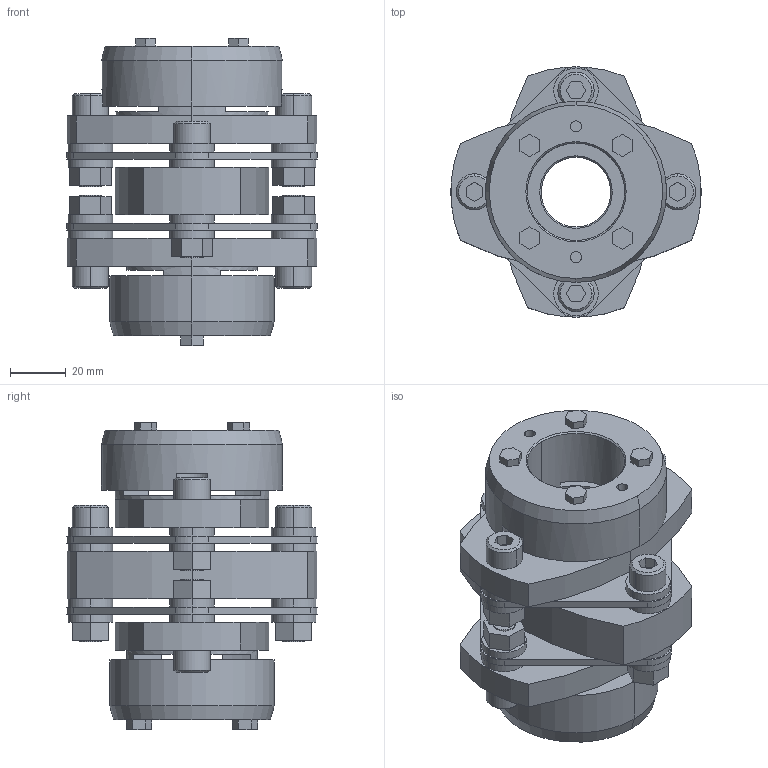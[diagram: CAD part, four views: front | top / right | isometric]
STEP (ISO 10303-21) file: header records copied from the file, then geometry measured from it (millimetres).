
FILE_DESCRIPTION((''),'2;1');
FILE_NAME('LCD-90T7-25×35.stp','2011-09-12T09:57:43',(''),(''),'AutoCAD STEP 2000i','AutoCAD 2000i',', , ');
FILE_SCHEMA(('CONFIG_CONTROL_DESIGN'));
Length unit declared in the file: millimetre
Products named in the file (10): LCD-90T7-25×35; 忣兜1; LC90T7-T035; LC90T7-T032; LC90T7-T030; LC90T7-T025-1; LC90T7-T025; LC90T7-T019-1; LC90T7-T019; LCD90-ITA
Assembly tree (9 placements, depth 2):
  LCD-90T7-25×35
    忣兜1
    LC90T7-T035
    LC90T7-T032
    LC90T7-T030
    LC90T7-T025-1
    LC90T7-T025
    LC90T7-T019-1
    LC90T7-T019
    LCD90-ITA
Bounding box: 90 x 89.94 x 110.3 mm (x, y, z)
Volume: 264179.9 mm3; surface area: 73909.8 mm2
Topology: 1 solids, 1 shells, 325 faces, 792 edges, 518 vertices
Faces by surface type: plane 179, cylinder 122, cone 24
Entity records: 9847 total; most frequent: DIRECTION 1750, CARTESIAN_POINT 1645, ORIENTED_EDGE 1584, EDGE_CURVE 792, AXIS2_PLACEMENT_3D 623, VERTEX_POINT 518, VECTOR 504, LINE 504
